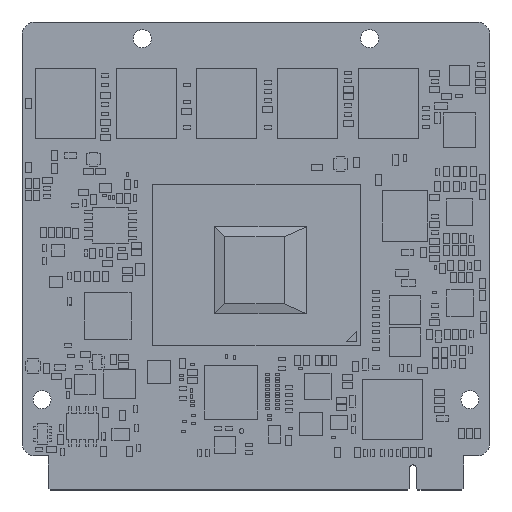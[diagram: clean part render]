
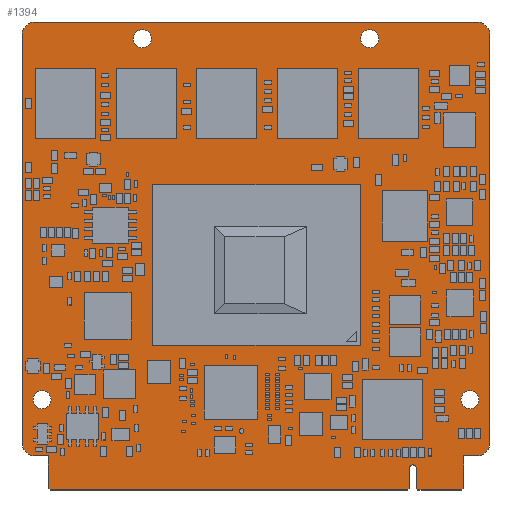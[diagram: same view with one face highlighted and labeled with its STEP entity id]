
A CAD part, top view. The second image highlights one B-rep face of the part: STEP entity #1394.
In plain terms, the highlighted planar face has unit normal (0, 0, 1).
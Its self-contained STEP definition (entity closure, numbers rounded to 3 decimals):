
#395=DIRECTION('',(0.707,0.707,0.));
#396=VECTOR('',#395,0.359);
#397=CARTESIAN_POINT('',(-4.204,0.,1.204));
#398=LINE('',#397,#396);
#402=DIRECTION('',(1.,0.,0.));
#403=VECTOR('',#402,6.574);
#404=CARTESIAN_POINT('',(-10.777,0.,1.204));
#405=LINE('',#404,#403);
#409=DIRECTION('',(0.707,-0.707,0.));
#410=VECTOR('',#409,0.359);
#411=CARTESIAN_POINT('',(-11.031,0.254,1.204));
#412=LINE('',#411,#410);
#416=DIRECTION('',(0.,-1.,0.));
#417=VECTOR('',#416,3.025);
#418=CARTESIAN_POINT('',(-11.031,3.279,1.204));
#419=LINE('',#418,#417);
#423=CARTESIAN_POINT('',(-11.549,3.244,1.204));
#424=DIRECTION('',(0.,0.,-1.));
#425=DIRECTION('',(0.807,0.591,0.));
#426=AXIS2_PLACEMENT_3D('',#423,#424,#425);
#431=CARTESIAN_POINT('',(-11.529,3.256,1.204));
#432=DIRECTION('',(0.,0.,-1.));
#433=DIRECTION('',(-0.334,0.943,0.));
#434=AXIS2_PLACEMENT_3D('',#431,#432,#433);
#439=CARTESIAN_POINT('',(-11.526,3.249,1.204));
#440=DIRECTION('',(0.,0.,-1.));
#441=DIRECTION('',(-1.,-0.001,0.));
#442=AXIS2_PLACEMENT_3D('',#439,#440,#441);
#447=DIRECTION('',(0.,1.,0.));
#448=VECTOR('',#447,2.995);
#449=CARTESIAN_POINT('',(-12.029,0.254,1.204));
#450=LINE('',#449,#448);
#454=DIRECTION('',(0.707,0.707,0.));
#455=VECTOR('',#454,0.359);
#456=CARTESIAN_POINT('',(-12.283,0.,1.204));
#457=LINE('',#456,#455);
#461=DIRECTION('',(1.,0.,0.));
#462=VECTOR('',#461,53.513);
#463=CARTESIAN_POINT('',(-65.796,0.,1.204));
#464=LINE('',#463,#462);
#468=DIRECTION('',(0.707,-0.707,0.));
#469=VECTOR('',#468,0.359);
#470=CARTESIAN_POINT('',(-66.05,0.254,1.204));
#471=LINE('',#470,#469);
#475=DIRECTION('',(0.,-1.,0.));
#476=VECTOR('',#475,4.846);
#477=CARTESIAN_POINT('',(-66.05,5.1,1.204));
#478=LINE('',#477,#476);
#482=DIRECTION('',(1.,0.,0.));
#483=VECTOR('',#482,1.951);
#484=CARTESIAN_POINT('',(-68.001,5.1,1.204));
#485=LINE('',#484,#483);
#489=CARTESIAN_POINT('',(-68.,7.1,1.204));
#490=DIRECTION('',(0.,0.,1.));
#491=DIRECTION('',(-1.,0.,0.));
#492=AXIS2_PLACEMENT_3D('',#489,#490,#491);
#497=DIRECTION('',(0.,-1.,0.));
#498=VECTOR('',#497,60.902);
#499=CARTESIAN_POINT('',(-70.,68.001,1.204));
#500=LINE('',#499,#498);
#504=CARTESIAN_POINT('',(-68.,68.,1.204));
#505=DIRECTION('',(0.,0.,1.));
#506=DIRECTION('',(0.,1.,0.));
#507=AXIS2_PLACEMENT_3D('',#504,#505,#506);
#512=DIRECTION('',(-1.,0.,0.));
#513=VECTOR('',#512,66.002);
#514=CARTESIAN_POINT('',(-1.999,70.,1.204));
#515=LINE('',#514,#513);
#519=CARTESIAN_POINT('',(-2.,68.,1.204));
#520=DIRECTION('',(0.,0.,1.));
#521=DIRECTION('',(1.,0.,0.));
#522=AXIS2_PLACEMENT_3D('',#519,#520,#521);
#527=DIRECTION('',(0.,1.,0.));
#528=VECTOR('',#527,60.902);
#529=CARTESIAN_POINT('',(0.,7.099,1.204));
#530=LINE('',#529,#528);
#534=CARTESIAN_POINT('',(-2.,7.1,1.204));
#535=DIRECTION('',(0.,0.,1.));
#536=DIRECTION('',(0.,-1.,0.));
#537=AXIS2_PLACEMENT_3D('',#534,#535,#536);
#542=DIRECTION('',(1.,0.,0.));
#543=VECTOR('',#542,1.951);
#544=CARTESIAN_POINT('',(-3.95,5.1,1.204));
#545=LINE('',#544,#543);
#549=DIRECTION('',(0.,1.,0.));
#550=VECTOR('',#549,4.846);
#551=CARTESIAN_POINT('',(-3.95,0.254,1.204));
#552=LINE('',#551,#550);
#556=CARTESIAN_POINT('',(-52.,67.5,1.204));
#557=DIRECTION('',(0.,0.,1.));
#558=DIRECTION('',(1.,0.,0.));
#559=AXIS2_PLACEMENT_3D('',#556,#557,#558);
#564=CARTESIAN_POINT('',(-52.,67.5,1.204));
#565=DIRECTION('',(0.,0.,1.));
#566=DIRECTION('',(-1.,0.,0.));
#567=AXIS2_PLACEMENT_3D('',#564,#565,#566);
#572=CARTESIAN_POINT('',(-18.,67.5,1.204));
#573=DIRECTION('',(0.,0.,1.));
#574=DIRECTION('',(1.,0.,0.));
#575=AXIS2_PLACEMENT_3D('',#572,#573,#574);
#580=CARTESIAN_POINT('',(-18.,67.5,1.204));
#581=DIRECTION('',(0.,0.,1.));
#582=DIRECTION('',(-1.,0.,0.));
#583=AXIS2_PLACEMENT_3D('',#580,#581,#582);
#588=CARTESIAN_POINT('',(-67.,13.5,1.204));
#589=DIRECTION('',(0.,0.,1.));
#590=DIRECTION('',(1.,0.,0.));
#591=AXIS2_PLACEMENT_3D('',#588,#589,#590);
#596=CARTESIAN_POINT('',(-67.,13.5,1.204));
#597=DIRECTION('',(0.,0.,1.));
#598=DIRECTION('',(-1.,0.,0.));
#599=AXIS2_PLACEMENT_3D('',#596,#597,#598);
#604=CARTESIAN_POINT('',(-3.,13.5,1.204));
#605=DIRECTION('',(0.,0.,1.));
#606=DIRECTION('',(1.,0.,0.));
#607=AXIS2_PLACEMENT_3D('',#604,#605,#606);
#612=CARTESIAN_POINT('',(-3.,13.5,1.204));
#613=DIRECTION('',(0.,0.,1.));
#614=DIRECTION('',(-1.,0.,0.));
#615=AXIS2_PLACEMENT_3D('',#612,#613,#614);
#720=CARTESIAN_POINT('',(-4.204,0.,1.204));
#721=CARTESIAN_POINT('',(-3.95,0.254,1.204));
#722=VERTEX_POINT('',#720);
#723=VERTEX_POINT('',#721);
#724=CARTESIAN_POINT('',(-3.95,5.1,1.204));
#725=VERTEX_POINT('',#724);
#726=CARTESIAN_POINT('',(-1.999,5.1,1.204));
#727=VERTEX_POINT('',#726);
#728=CARTESIAN_POINT('',(0.,7.099,1.204));
#729=VERTEX_POINT('',#728);
#730=CARTESIAN_POINT('',(0.,68.001,1.204));
#731=VERTEX_POINT('',#730);
#732=CARTESIAN_POINT('',(-1.999,70.,1.204));
#733=VERTEX_POINT('',#732);
#734=CARTESIAN_POINT('',(-68.001,70.,1.204));
#735=VERTEX_POINT('',#734);
#736=CARTESIAN_POINT('',(-70.,68.001,1.204));
#737=VERTEX_POINT('',#736);
#738=CARTESIAN_POINT('',(-70.,7.099,1.204));
#739=VERTEX_POINT('',#738);
#740=CARTESIAN_POINT('',(-68.001,5.1,1.204));
#741=VERTEX_POINT('',#740);
#742=CARTESIAN_POINT('',(-66.05,5.1,1.204));
#743=VERTEX_POINT('',#742);
#744=CARTESIAN_POINT('',(-66.05,0.254,1.204));
#745=VERTEX_POINT('',#744);
#746=CARTESIAN_POINT('',(-65.796,0.,1.204));
#747=VERTEX_POINT('',#746);
#748=CARTESIAN_POINT('',(-12.283,0.,1.204));
#749=VERTEX_POINT('',#748);
#750=CARTESIAN_POINT('',(-12.029,0.254,1.204));
#751=VERTEX_POINT('',#750);
#752=CARTESIAN_POINT('',(-12.029,3.249,1.204));
#753=VERTEX_POINT('',#752);
#754=CARTESIAN_POINT('',(-11.694,3.724,1.204));
#755=VERTEX_POINT('',#754);
#756=CARTESIAN_POINT('',(-11.13,3.551,1.204));
#757=VERTEX_POINT('',#756);
#758=CARTESIAN_POINT('',(-11.031,3.279,1.204));
#759=VERTEX_POINT('',#758);
#760=CARTESIAN_POINT('',(-11.031,0.254,1.204));
#761=VERTEX_POINT('',#760);
#762=CARTESIAN_POINT('',(-10.777,0.,1.204));
#763=VERTEX_POINT('',#762);
#780=CARTESIAN_POINT('',(-50.645,67.5,1.204));
#781=CARTESIAN_POINT('',(-53.355,67.5,1.204));
#782=VERTEX_POINT('',#780);
#783=VERTEX_POINT('',#781);
#784=CARTESIAN_POINT('',(-16.645,67.5,1.204));
#785=CARTESIAN_POINT('',(-19.355,67.5,1.204));
#786=VERTEX_POINT('',#784);
#787=VERTEX_POINT('',#785);
#788=CARTESIAN_POINT('',(-65.645,13.5,1.204));
#789=CARTESIAN_POINT('',(-68.355,13.5,1.204));
#790=VERTEX_POINT('',#788);
#791=VERTEX_POINT('',#789);
#792=CARTESIAN_POINT('',(-1.645,13.5,1.204));
#793=CARTESIAN_POINT('',(-4.355,13.5,1.204));
#794=VERTEX_POINT('',#792);
#795=VERTEX_POINT('',#793);
#1341=CARTESIAN_POINT('',(0.,0.,1.204));
#1342=DIRECTION('',(0.,0.,1.));
#1343=DIRECTION('',(1.,0.,0.));
#1344=AXIS2_PLACEMENT_3D('',#1341,#1342,#1343);
#1345=PLANE('',#1344);
#1346=ORIENTED_EDGE('',*,*,#887,.F.);
#1347=ORIENTED_EDGE('',*,*,#909,.F.);
#1348=ORIENTED_EDGE('',*,*,#930,.F.);
#1349=ORIENTED_EDGE('',*,*,#951,.F.);
#1350=ORIENTED_EDGE('',*,*,#972,.F.);
#1351=ORIENTED_EDGE('',*,*,#993,.F.);
#1352=ORIENTED_EDGE('',*,*,#1014,.F.);
#1353=ORIENTED_EDGE('',*,*,#1035,.F.);
#1354=ORIENTED_EDGE('',*,*,#1056,.F.);
#1355=ORIENTED_EDGE('',*,*,#1077,.F.);
#1356=ORIENTED_EDGE('',*,*,#1098,.F.);
#1357=ORIENTED_EDGE('',*,*,#1119,.F.);
#1358=ORIENTED_EDGE('',*,*,#1140,.F.);
#1359=ORIENTED_EDGE('',*,*,#1161,.F.);
#1360=ORIENTED_EDGE('',*,*,#1182,.F.);
#1361=ORIENTED_EDGE('',*,*,#1203,.F.);
#1362=ORIENTED_EDGE('',*,*,#1224,.F.);
#1363=ORIENTED_EDGE('',*,*,#1245,.F.);
#1364=ORIENTED_EDGE('',*,*,#1266,.F.);
#1365=ORIENTED_EDGE('',*,*,#1287,.F.);
#1366=ORIENTED_EDGE('',*,*,#1308,.F.);
#1367=ORIENTED_EDGE('',*,*,#1328,.F.);
#1368=EDGE_LOOP('',(#1346,#1347,#1348,#1349,#1350,#1351,#1352,#1353,#1354,#1355,
#1356,#1357,#1358,#1359,#1360,#1361,#1362,#1363,#1364,#1365,#1366,#1367));
#1369=FACE_OUTER_BOUND('',#1368,.F.);
#1371=ORIENTED_EDGE('',*,*,#1370,.T.);
#1373=ORIENTED_EDGE('',*,*,#1372,.T.);
#1374=EDGE_LOOP('',(#1371,#1373));
#1375=FACE_BOUND('',#1374,.F.);
#1377=ORIENTED_EDGE('',*,*,#1376,.T.);
#1379=ORIENTED_EDGE('',*,*,#1378,.T.);
#1380=EDGE_LOOP('',(#1377,#1379));
#1381=FACE_BOUND('',#1380,.F.);
#1383=ORIENTED_EDGE('',*,*,#1382,.T.);
#1385=ORIENTED_EDGE('',*,*,#1384,.T.);
#1386=EDGE_LOOP('',(#1383,#1385));
#1387=FACE_BOUND('',#1386,.F.);
#1389=ORIENTED_EDGE('',*,*,#1388,.T.);
#1391=ORIENTED_EDGE('',*,*,#1390,.T.);
#1392=EDGE_LOOP('',(#1389,#1391));
#1393=FACE_BOUND('',#1392,.F.);
#1394=ADVANCED_FACE('',(#1369,#1375,#1381,#1387,#1393),#1345,.T.);
#427=CIRCLE('',#426,0.519);
#435=CIRCLE('',#434,0.496);
#443=CIRCLE('',#442,0.504);
#493=CIRCLE('',#492,2.);
#508=CIRCLE('',#507,2.);
#523=CIRCLE('',#522,2.);
#538=CIRCLE('',#537,2.);
#560=CIRCLE('',#559,1.355);
#568=CIRCLE('',#567,1.355);
#576=CIRCLE('',#575,1.355);
#584=CIRCLE('',#583,1.355);
#592=CIRCLE('',#591,1.355);
#600=CIRCLE('',#599,1.355);
#608=CIRCLE('',#607,1.355);
#616=CIRCLE('',#615,1.355);
#887=EDGE_CURVE('',#722,#723,#398,.T.);
#909=EDGE_CURVE('',#763,#722,#405,.T.);
#930=EDGE_CURVE('',#761,#763,#412,.T.);
#951=EDGE_CURVE('',#759,#761,#419,.T.);
#972=EDGE_CURVE('',#757,#759,#427,.T.);
#993=EDGE_CURVE('',#755,#757,#435,.T.);
#1014=EDGE_CURVE('',#753,#755,#443,.T.);
#1035=EDGE_CURVE('',#751,#753,#450,.T.);
#1056=EDGE_CURVE('',#749,#751,#457,.T.);
#1077=EDGE_CURVE('',#747,#749,#464,.T.);
#1098=EDGE_CURVE('',#745,#747,#471,.T.);
#1119=EDGE_CURVE('',#743,#745,#478,.T.);
#1140=EDGE_CURVE('',#741,#743,#485,.T.);
#1161=EDGE_CURVE('',#739,#741,#493,.T.);
#1182=EDGE_CURVE('',#737,#739,#500,.T.);
#1203=EDGE_CURVE('',#735,#737,#508,.T.);
#1224=EDGE_CURVE('',#733,#735,#515,.T.);
#1245=EDGE_CURVE('',#731,#733,#523,.T.);
#1266=EDGE_CURVE('',#729,#731,#530,.T.);
#1287=EDGE_CURVE('',#727,#729,#538,.T.);
#1308=EDGE_CURVE('',#725,#727,#545,.T.);
#1328=EDGE_CURVE('',#723,#725,#552,.T.);
#1370=EDGE_CURVE('',#782,#783,#560,.T.);
#1372=EDGE_CURVE('',#783,#782,#568,.T.);
#1376=EDGE_CURVE('',#786,#787,#576,.T.);
#1378=EDGE_CURVE('',#787,#786,#584,.T.);
#1382=EDGE_CURVE('',#790,#791,#592,.T.);
#1384=EDGE_CURVE('',#791,#790,#600,.T.);
#1388=EDGE_CURVE('',#794,#795,#608,.T.);
#1390=EDGE_CURVE('',#795,#794,#616,.T.);
